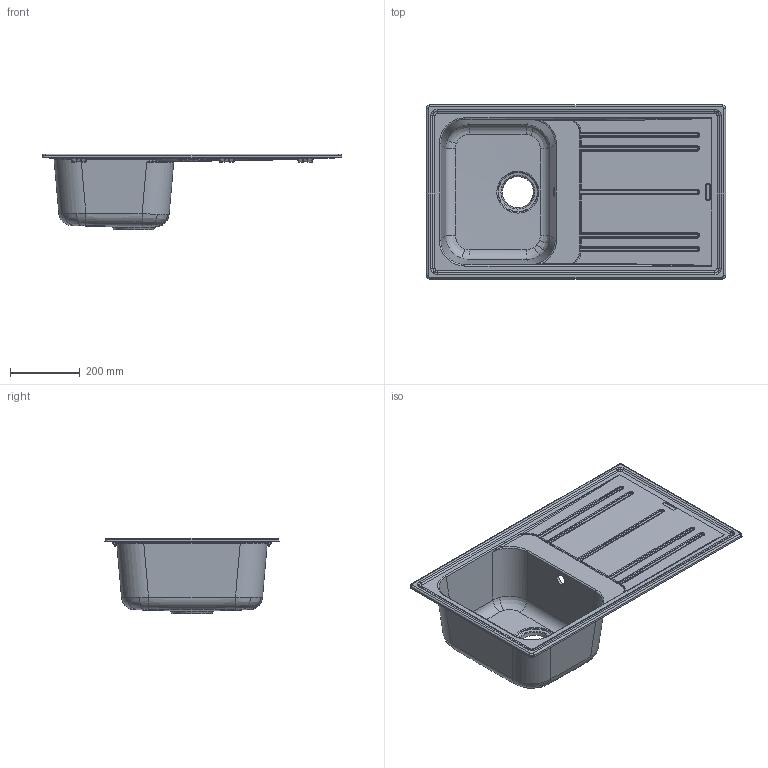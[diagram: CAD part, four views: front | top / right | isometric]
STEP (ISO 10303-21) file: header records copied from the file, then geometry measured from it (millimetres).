
FILE_DESCRIPTION((''),'1');
FILE_NAME('C:/Users/linop/Desktop/LZ861A2.stp','2018-03-08T13:25:52',(''),(''),'Spatial Interop R20 SP1','Kubotek KeyCreator V9.0.3 (16864)',' ');
FILE_SCHEMA(('CONFIG_CONTROL_DESIGN'));
Length unit declared in the file: millimetre
Products named in the file (1): 1
Bounding box: 860 x 500 x 216.96 mm (x, y, z)
Volume: 5279849.9 mm3; surface area: 1316224.6 mm2
Topology: 1 solids, 1 shells, 737 faces, 2135 edges, 1343 vertices
Faces by surface type: bspline 398, cylinder 217, plane 71, sphere 36, torus 12, cone 3
Full cylindrical faces by diameter (mm): 30 x1, 35 x2
Entity records: 36370 total; most frequent: CARTESIAN_POINT 21972, ORIENTED_EDGE 4116, EDGE_CURVE 2058, DIRECTION 1530, VERTEX_POINT 1341, B_SPLINE_CURVE_WITH_KNOTS 1099, EDGE_LOOP 759, ADVANCED_FACE 737
